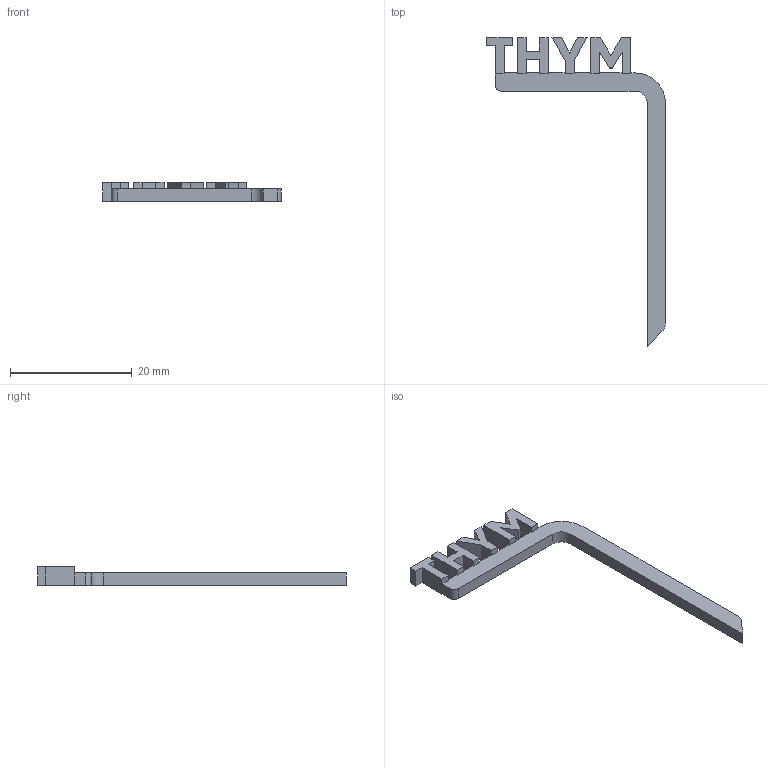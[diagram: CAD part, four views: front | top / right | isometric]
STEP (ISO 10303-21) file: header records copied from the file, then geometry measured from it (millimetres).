
FILE_DESCRIPTION(('STEP AP214'),'1');
FILE_NAME('Thym.stp','2025-04-24T13:26:22',(' '),(' '),'Spatial InterOp 3D',' ',' ');
FILE_SCHEMA(('AUTOMOTIVE_DESIGN { 1 0 10303 214 1 1 1 1 }'));
Length unit declared in the file: millimetre
Products named in the file (1): Thym
Bounding box: 29.43 x 50.83 x 3 mm (x, y, z)
Volume: 619.6 mm3; surface area: 1130.2 mm2
Topology: 1 solids, 1 shells, 63 faces, 189 edges, 126 vertices
Faces by surface type: plane 59, cylinder 4
Entity records: 2637 total; most frequent: CARTESIAN_POINT 379, ORIENTED_EDGE 378, DIRECTION 325, EDGE_CURVE 189, LINE 181, VECTOR 181, VERTEX_POINT 126, AXIS2_PLACEMENT_3D 72
